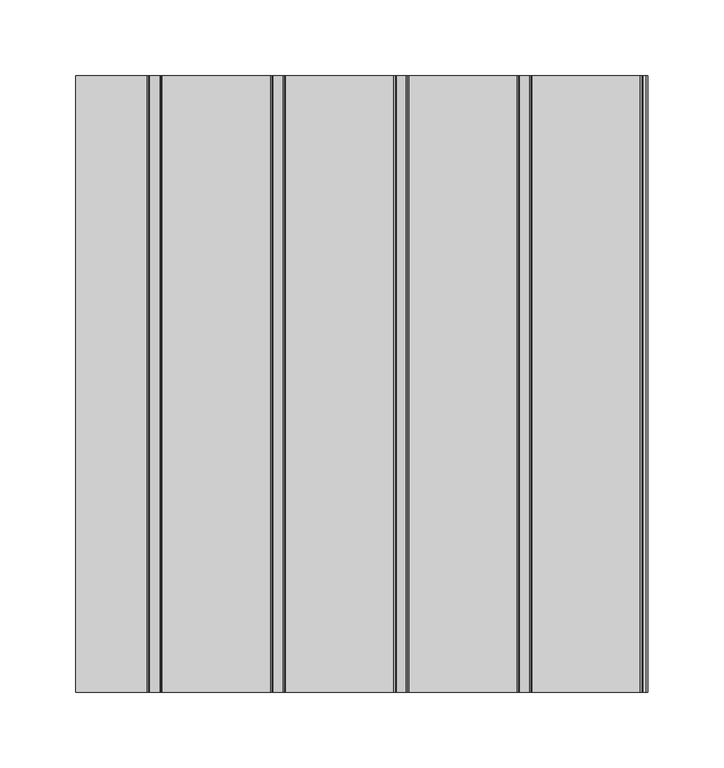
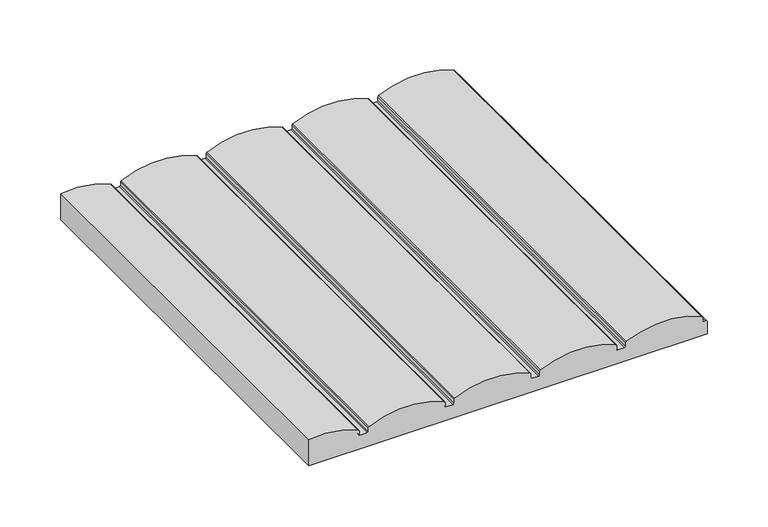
"""IFC4 building model written with IfcOpenShell, lengths in millimetres: proxy geometry, Spinneybeck_Porto 1 : Porto 1."""

from ifc_helpers import new_model, si_unit, point, frame, frame_2d, origin, place, context, project, spatial, polyline, circle_curve, trimmed, segment, composite_curve, outline, extrude, source, transform, mapped, element, save


def specialty_equipment_7c3adb14(model_context):
    return source(origin(), model_context, "Body", "SweptSolid", [
        extrude(outline(composite_curve([segment(polyline([(0.0, -174.0753011), (0.0, 203.2), (12.5078125, 203.2)]), True, "CONTINUOUS"), segment(trimmed(circle_curve(frame_2d((12.5078125, 202.2078125)), 0.9921875), [point((12.5078125, 203.2))], [point((13.5, 202.2078125))], False, "CARTESIAN"), True, "CONTINUOUS"), segment(polyline([(13.5, 202.2078125), (13.5, 199.9465867)]), True, "CONTINUOUS"), segment(trimmed(circle_curve(frame_2d((14.4921875, 199.9465867)), 0.9921875), [point((13.5, 199.9465867))], [point((14.4921875, 198.9543992))], True, "CARTESIAN"), True, "CONTINUOUS"), segment(polyline([(14.4921875, 198.9543992), (17.9268461, 198.9543992)]), True, "CONTINUOUS"), segment(trimmed(circle_curve(frame_2d((17.9268461, 197.6645554)), 1.2898438), [point((17.9268461, 198.9543992))], [point((19.0971842, 198.2067783))], False, "CARTESIAN"), True, "CONTINUOUS"), segment(trimmed(circle_curve(frame_2d((-57.8431012, 162.56)), 84.7968178), [point((19.0971842, 198.2067783))], [point((19.0971842, 126.9132217))], False, "CARTESIAN"), True, "CONTINUOUS"), segment(trimmed(circle_curve(frame_2d((17.9268461, 127.4554446)), 1.2898437), [point((19.0971842, 126.9132217))], [point((17.9268461, 126.1656008))], False, "CARTESIAN"), True, "CONTINUOUS"), segment(polyline([(17.9268461, 126.1656008), (14.4921875, 126.1656008)]), True, "CONTINUOUS"), segment(trimmed(circle_curve(frame_2d((14.4921875, 125.1734133)), 0.9921875), [point((14.4921875, 126.1656008))], [point((13.5, 125.1734133))], True, "CARTESIAN"), True, "CONTINUOUS"), segment(polyline([(13.5, 125.1734133), (13.5, 118.6665867)]), True, "CONTINUOUS"), segment(trimmed(circle_curve(frame_2d((14.4921875, 118.6665867)), 0.9921875), [point((13.5, 118.6665867))], [point((14.4921875, 117.6743992))], True, "CARTESIAN"), True, "CONTINUOUS"), segment(polyline([(14.4921875, 117.6743992), (17.9268461, 117.6743992)]), True, "CONTINUOUS"), segment(trimmed(circle_curve(frame_2d((17.9268461, 116.3845554)), 1.2898437), [point((17.9268461, 117.6743992))], [point((19.0971842, 116.9267783))], False, "CARTESIAN"), True, "CONTINUOUS"), segment(trimmed(circle_curve(frame_2d((-57.8431012, 81.28)), 84.7968178), [point((19.0971842, 116.9267783))], [point((19.0971842, 45.6332217))], False, "CARTESIAN"), True, "CONTINUOUS"), segment(trimmed(circle_curve(frame_2d((17.9268461, 46.1754446)), 1.2898437), [point((19.0971842, 45.6332217))], [point((17.9268461, 44.8856008))], False, "CARTESIAN"), True, "CONTINUOUS"), segment(polyline([(17.9268461, 44.8856008), (14.4921875, 44.8856008)]), True, "CONTINUOUS"), segment(trimmed(circle_curve(frame_2d((14.4921875, 43.8934133)), 0.9921875), [point((14.4921875, 44.8856008))], [point((13.5, 43.8934133))], True, "CARTESIAN"), True, "CONTINUOUS"), segment(polyline([(13.5, 43.8934133), (13.5, 37.3865867)]), True, "CONTINUOUS"), segment(trimmed(circle_curve(frame_2d((14.4921875, 37.3865867)), 0.9921875), [point((13.5, 37.3865867))], [point((14.4921875, 36.3943992))], True, "CARTESIAN"), True, "CONTINUOUS"), segment(polyline([(14.4921875, 36.3943992), (17.9268461, 36.3943992)]), True, "CONTINUOUS"), segment(trimmed(circle_curve(frame_2d((17.9268461, 35.1045554)), 1.2898437), [point((17.9268461, 36.3943992))], [point((19.0971842, 35.6467783))], False, "CARTESIAN"), True, "CONTINUOUS"), segment(trimmed(circle_curve(frame_2d((-57.8431012, 0.0)), 84.7968178), [point((19.0971842, 35.6467783))], [point((19.0971842, -35.6467783))], False, "CARTESIAN"), True, "CONTINUOUS"), segment(trimmed(circle_curve(frame_2d((17.9268461, -35.1045554)), 1.2898437), [point((19.0971842, -35.6467783))], [point((17.9268461, -36.3943992))], False, "CARTESIAN"), True, "CONTINUOUS"), segment(polyline([(17.9268461, -36.3943992), (14.4921875, -36.3943992)]), True, "CONTINUOUS"), segment(trimmed(circle_curve(frame_2d((14.4921875, -37.3865867)), 0.9921875), [point((14.4921875, -36.3943992))], [point((13.5, -37.3865867))], True, "CARTESIAN"), True, "CONTINUOUS"), segment(polyline([(13.5, -37.3865867), (13.5, -43.8934133)]), True, "CONTINUOUS"), segment(trimmed(circle_curve(frame_2d((14.4921875, -43.8934133)), 0.9921875), [point((13.5, -43.8934133))], [point((14.4921875, -44.8856008))], True, "CARTESIAN"), True, "CONTINUOUS"), segment(polyline([(14.4921875, -44.8856008), (17.9268461, -44.8856008)]), True, "CONTINUOUS"), segment(trimmed(circle_curve(frame_2d((17.9268461, -46.1754446)), 1.2898438), [point((17.9268461, -44.8856008))], [point((19.0971842, -45.6332217))], False, "CARTESIAN"), True, "CONTINUOUS"), segment(trimmed(circle_curve(frame_2d((-57.8431012, -81.28)), 84.7968178), [point((19.0971842, -45.6332217))], [point((19.0971842, -116.9267783))], False, "CARTESIAN"), True, "CONTINUOUS"), segment(trimmed(circle_curve(frame_2d((17.9268461, -116.3845554)), 1.2898437), [point((19.0971842, -116.9267783))], [point((17.9268461, -117.6743992))], False, "CARTESIAN"), True, "CONTINUOUS"), segment(polyline([(17.9268461, -117.6743992), (14.4921875, -117.6743992)]), True, "CONTINUOUS"), segment(trimmed(circle_curve(frame_2d((14.4921875, -118.6665867)), 0.9921875), [point((14.4921875, -117.6743992))], [point((13.5, -118.6665867))], True, "CARTESIAN"), True, "CONTINUOUS"), segment(polyline([(13.5, -118.6665867), (13.5, -125.1734133)]), True, "CONTINUOUS"), segment(trimmed(circle_curve(frame_2d((14.4921875, -125.1734133)), 0.9921875), [point((13.5, -125.1734133))], [point((14.4921875, -126.1656008))], True, "CARTESIAN"), True, "CONTINUOUS"), segment(polyline([(14.4921875, -126.1656008), (17.9268461, -126.1656008)]), True, "CONTINUOUS"), segment(trimmed(circle_curve(frame_2d((17.9268461, -127.4554446)), 1.2898437), [point((17.9268461, -126.1656008))], [point((19.0971842, -126.9132217))], False, "CARTESIAN"), True, "CONTINUOUS"), segment(trimmed(circle_curve(frame_2d((-57.8431012, -162.56)), 84.7968178), [point((19.0971842, -126.9132217))], [point((26.1681966, -174.0753011))], False, "CARTESIAN"), True, "CONTINUOUS"), segment(polyline([(26.1681966, -174.0753011), (0.0, -174.0753011)]), True, "CONTINUOUS")], self_intersect=False)), frame((0.0, -203.2, 0.0), z_axis=(0.0, 1.0, 0.0), x_axis=(0.0, 0.0, 1.0)), (0.0, 0.0, 1.0), 406.4),
    ])


if __name__ == "__main__":
    model = new_model("IFC4")
    model_context = context("Model", 3, world=origin())
    ifc_project = project(units=[si_unit("LENGTHUNIT", "METRE", prefix="MILLI")], contexts=[model_context])
    site = spatial("IfcSite", under=ifc_project)
    building = spatial("IfcBuilding", under=site)
    placement = place(None, origin())
    specialty_equipment_shape = specialty_equipment_7c3adb14(model_context)
    element("IfcBuildingElementProxy", 1, Name="Spinneybeck_Porto 1 : Porto 1", ObjectType="Spinneybeck_Porto 1 : Porto 1", at=placement, inside=building, context=model_context, shape_type="MappedRepresentation", body=[
        mapped(specialty_equipment_shape, transform((0.0, 0.0, 0.0), x_axis=(1.0, 0.0, 0.0), y_axis=(0.0, 1.0, 0.0), z_axis=(0.0, 0.0, 1.0))),
    ])
    save(model, "model.ifc")
